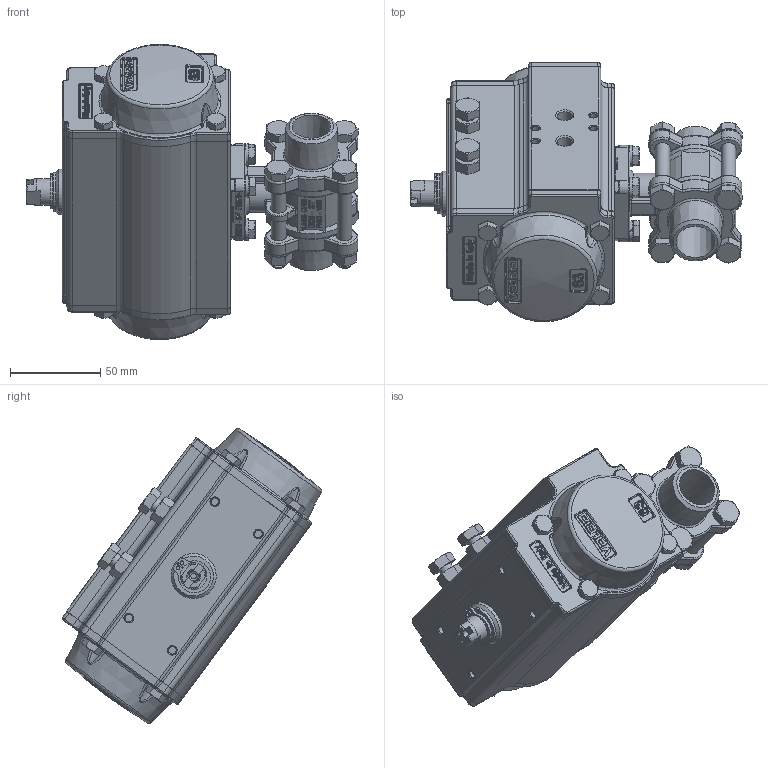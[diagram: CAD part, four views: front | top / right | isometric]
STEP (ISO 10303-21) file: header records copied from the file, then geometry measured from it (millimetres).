
FILE_DESCRIPTION((''),'2;1');
FILE_NAME('M:\3D-Files nach Lieferanten\TA-Produkte\angetriebene Armaturen\Register 8\RB_791x\7914 020 SR063.stp','2021-12-21T13:28:36',('RL'),(''),'Autodesk Inventor 2012','Autodesk Inventor 2012','');
FILE_SCHEMA(('AUTOMOTIVE_DESIGN { 1 0 10303 214 1 1 1 1 }'));
Length unit declared in the file: millimetre
Products named in the file (1): 7914_020_82SR063
Bounding box: 183.51 x 143.46 x 163.1 mm (x, y, z)
Surface area: 121025.7 mm2
Topology: 10 solids, 11 shells, 2682 faces, 7171 edges, 4641 vertices
Faces by surface type: plane 1146, bspline 686, cylinder 381, cone 325, torus 133, sphere 11
Full cylindrical faces by diameter (mm): 2 x2, 3 x1, 4 x2, 4.2 x8, 5 x1, 5.5 x10, 6 x4, 6.8 x4, 8 x14, 8.5 x10, 8.88 x1, 8.9 x2, 9 x1, 10 x8, 12 x6, 12.1 x1, 12.3 x2, 12.4 x1, 12.5 x1, 12.8 x1, 13.9 x1, 14.7 x1, 14.8 x4, 15.8 x2, 15.875 x1, 16 x5, 16.1 x1, 20 x1, 20.5 x2, 22 x1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
Entity records: 147191 total; most frequent: CARTESIAN_POINT 86225, ORIENTED_EDGE 13642, DIRECTION 10367, EDGE_CURVE 6821, VERTEX_POINT 4544, AXIS2_PLACEMENT_3D 3774, EDGE_LOOP 3109, VECTOR 2819
